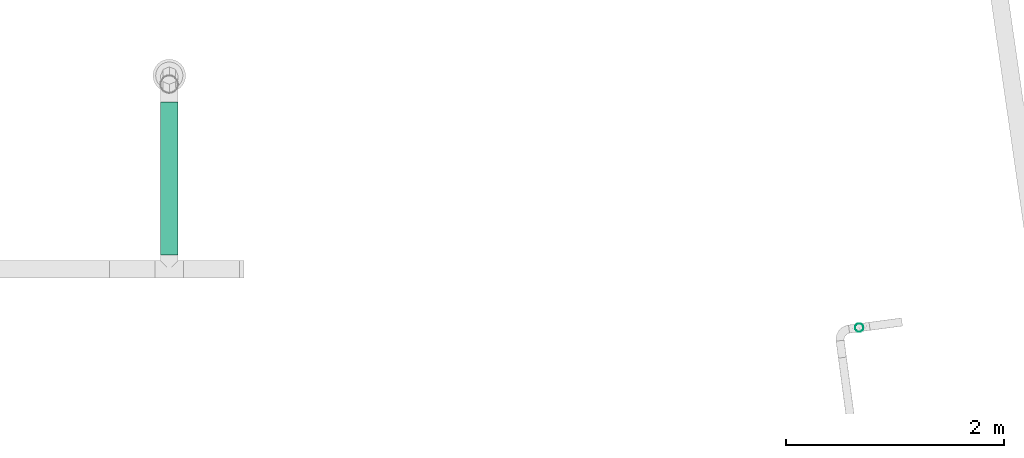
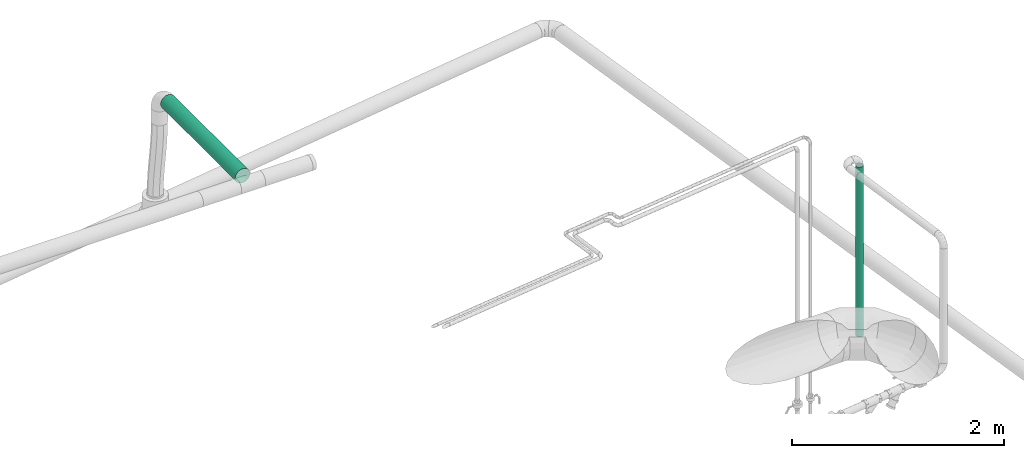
# One storey, part 232 of 374: 2 flow segments.
"""IFC2X3 building model written with IfcOpenShell, lengths in metres."""

from ifc_helpers import new_model, si_unit, direction, origin, place, context, subcontext, project, spatial, open_shell, surface_model, source, transform, mapped, element, save


model = new_model("IFC2X3")

# Units and contexts
model_context = context("Model", 3, precision=1e-05, world=origin(), true_north=direction((-0.4480736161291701, 0.8939966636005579)))
body_context = subcontext(model_context, "Body", "Model", "MODEL_VIEW")
ifc_project = project(units=[si_unit("LENGTHUNIT", "METRE"), si_unit("AREAUNIT", "SQUARE_METRE"), si_unit("VOLUMEUNIT", "CUBIC_METRE"), si_unit("PLANEANGLEUNIT", "RADIAN"), si_unit("THERMODYNAMICTEMPERATUREUNIT", "KELVIN"), si_unit("MASSUNIT", "GRAM", prefix="KILO"), si_unit("TIMEUNIT", "SECOND")], contexts=[model_context])

# Site, building, storey
site_placement = place(None, origin())
site = spatial("IfcSite", under=ifc_project, at=site_placement, Name="Site 1", CompositionType="ELEMENT")
building_placement = place(site_placement, origin())
building = spatial("IfcBuilding", under=site, at=building_placement, Name="Undefined", CompositionType="ELEMENT")
storey_placement = place(building_placement, origin())
storey = spatial("IfcBuildingStorey", under=building, at=storey_placement, Name="Rez de chauss\x8ee", CompositionType="ELEMENT", Elevation=0.0)

# Flow segments
shared_shape_1 = source(origin(), body_context, "Body", "SurfaceModel", [
    surface_model("IfcFaceBasedSurfaceModel", [(0.0, 0.020884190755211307, 0.0), (0.0, 0.0, 0.0), (1.4053950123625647, 0.0, -1.776356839e-15), (1.4053950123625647, 0.0208841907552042, -1.776356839e-15), (0.0, -0.020172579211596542, -0.005405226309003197), (1.4053950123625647, -0.020172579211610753, -0.005405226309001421), (0.0, -0.03825881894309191, -0.015847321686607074), (1.4053950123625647, -0.038258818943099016, -0.015847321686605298), (0.0, -0.05302617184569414, -0.0306146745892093), (1.4053950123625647, -0.05302617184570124, -0.030614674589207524), (0.0, -0.06346826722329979, -0.04870091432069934), (1.4053950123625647, -0.0634682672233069, -0.04870091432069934), (0.0, -0.06887349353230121, -0.06887349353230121), (1.4053950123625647, -0.06887349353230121, -0.06887349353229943), (0.0, -0.06887349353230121, -0.08975768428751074), (1.4053950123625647, -0.06887349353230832, -0.08975768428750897), (0.0, -0.06346826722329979, -0.10993026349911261), (1.4053950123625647, -0.0634682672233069, -0.10993026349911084), (0.0, -0.05302617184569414, -0.12801650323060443), (1.4053950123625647, -0.05302617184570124, -0.12801650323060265), (0.0, -0.038258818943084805, -0.14278385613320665), (1.4053950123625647, -0.038258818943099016, -0.1427838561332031), (0.0, -0.020172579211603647, -0.15322595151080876), (1.4053950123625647, -0.020172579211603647, -0.15322595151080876), (0.0, 7.105427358e-15, -0.15863117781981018), (1.4053950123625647, -7.105427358e-15, -0.15863117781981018), (0.0, 0.020884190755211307, -0.15863117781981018), (1.4053950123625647, 0.0208841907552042, -0.15863117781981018), (0.0, 0.04105676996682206, -0.15322595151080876), (1.4053950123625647, 0.04105676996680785, -0.15322595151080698), (0.0, 0.05914300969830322, -0.1427838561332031), (1.4053950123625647, 0.05914300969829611, -0.14278385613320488), (0.0, 0.07391036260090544, -0.12801650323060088), (1.4053950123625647, 0.07391036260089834, -0.12801650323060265), (0.0, 0.0843524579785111, -0.10993026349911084), (1.4053950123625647, 0.08435245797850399, -0.10993026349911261), (0.0, 0.08975768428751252, -0.08975768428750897), (1.4053950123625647, 0.08975768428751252, -0.08975768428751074), (0.0, 0.08975768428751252, -0.06887349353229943), (1.4053950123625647, 0.08975768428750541, -0.06887349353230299), (0.0, 0.0843524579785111, -0.048700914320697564), (1.4053950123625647, 0.08435245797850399, -0.048700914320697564), (0.0, 0.07391036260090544, -0.030614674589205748), (1.4053950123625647, 0.07391036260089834, -0.030614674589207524), (0.0, 0.05914300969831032, -0.015847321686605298), (1.4053950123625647, 0.05914300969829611, -0.015847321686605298), (0.0, 0.04105676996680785, -0.005405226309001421), (1.4053950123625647, 0.04105676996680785, -0.005405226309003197)], [open_shell([[[0, 1, 2, 3]], [[1, 4, 5, 2]], [[4, 6, 7, 5]], [[6, 8, 9, 7]], [[8, 10, 11, 9]], [[10, 12, 13, 11]], [[12, 14, 15, 13]], [[14, 16, 17, 15]], [[16, 18, 19, 17]], [[18, 20, 21, 19]], [[20, 22, 23, 21]], [[22, 24, 25, 23]], [[24, 26, 27, 25]], [[26, 28, 29, 27]], [[28, 30, 31, 29]], [[30, 32, 33, 31]], [[32, 34, 35, 33]], [[34, 36, 37, 35]], [[36, 38, 39, 37]], [[38, 40, 41, 39]], [[40, 42, 43, 41]], [[42, 44, 45, 43]], [[44, 46, 47, 45]], [[46, 0, 3, 47]]])]),
])
flow_segment_1_placement = place(storey_placement, origin())
element("IfcFlowSegment", 1, at=flow_segment_1_placement, inside=storey, Name="Tube", ObjectType="Tube", context=body_context, shape_type="MappedRepresentation", body=[
    mapped(shared_shape_1, transform((61.3468488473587, 22.787875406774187, 3.877274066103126), x_axis=(0.0, 1.0, 0.0), y_axis=(-0.9914448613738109, 0.0, 0.1305261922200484), z_axis=(0.1305261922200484, 0.0, 0.9914448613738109))),
])
shared_shape_2 = source(origin(), body_context, "Body", "SurfaceModel", [
    surface_model("IfcFaceBasedSurfaceModel", [(0.0, 0.009933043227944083, 0.0), (0.0, 0.0, 0.0), (1.9503070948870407, 0.0, -3.552713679e-15), (1.9503070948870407, 0.00993304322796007, 0.0), (0.0, -0.009594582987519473, -0.002570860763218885), (1.9503070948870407, -0.009594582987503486, -0.0025708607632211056), (0.0, -0.018196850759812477, -0.007537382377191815), (1.9503070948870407, -0.01819685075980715, -0.007537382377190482), (0.0, -0.025220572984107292, -0.014561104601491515), (1.9503070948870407, -0.025220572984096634, -0.01456110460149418), (1.4210854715e-14, -0.030187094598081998, -0.023163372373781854), (1.9503070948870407, -0.03018709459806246, -0.023163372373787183), (0.0, -0.03275795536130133, -0.032757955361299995), (1.9503070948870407, -0.03275795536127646, -0.03275795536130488), (1.4210854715e-14, -0.03275795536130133, -0.0426909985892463), (1.9503070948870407, -0.03275795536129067, -0.04269099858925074), (0.0, -0.030187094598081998, -0.052285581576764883), (1.9503070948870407, -0.03018709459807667, -0.052285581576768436), (0.0, -0.02522057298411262, -0.06088784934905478), (1.9503070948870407, -0.025220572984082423, -0.06088784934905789), (0.0, -0.0181968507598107, -0.06791157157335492), (1.9503070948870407, -0.018196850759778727, -0.06791157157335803), (0.0, -0.009594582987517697, -0.07287809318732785), (1.9503070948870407, -0.009594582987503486, -0.07287809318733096), (0.0, -3.552713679e-15, -0.07544895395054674), (1.9503070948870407, 0.0, -0.07544895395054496), (0.0, 0.009933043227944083, -0.07544895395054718), (1.9503070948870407, 0.00993304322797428, -0.07544895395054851), (1.4210854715e-14, 0.019527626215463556, -0.07287809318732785), (1.9503070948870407, 0.019527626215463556, -0.07287809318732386), (0.0, 0.028129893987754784, -0.06791157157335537), (1.9503070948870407, 0.028129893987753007, -0.06791157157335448), (0.0, 0.03515361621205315, -0.06088784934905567), (1.9503070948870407, 0.035153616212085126, -0.060887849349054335), (0.0, 0.04012013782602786, -0.05228558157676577), (1.9503070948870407, 0.04012013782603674, -0.052285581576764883), (0.0, 0.04269099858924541, -0.04269099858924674), (1.9503070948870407, 0.04269099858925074, -0.04269099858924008), (0.0, 0.04269099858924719, -0.03275795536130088), (1.9503070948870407, 0.04269099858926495, -0.032757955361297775), (0.0, 0.04012013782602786, -0.0231633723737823), (1.9503070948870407, 0.04012013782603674, -0.023163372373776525), (0.0, 0.03515361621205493, -0.014561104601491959), (1.9503070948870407, 0.035153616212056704, -0.014561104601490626), (1.4210854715e-14, 0.028129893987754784, -0.007537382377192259), (1.9503070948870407, 0.02812989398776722, -0.007537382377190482), (7.105427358e-15, 0.019527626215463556, -0.0025708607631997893), (1.9503070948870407, 0.019527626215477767, -0.002570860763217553)], [open_shell([[[0, 1, 2, 3]], [[1, 4, 5, 2]], [[4, 6, 7, 5]], [[6, 8, 9, 7]], [[8, 10, 11, 9]], [[10, 12, 13, 11]], [[12, 14, 15, 13]], [[14, 16, 17, 15]], [[16, 18, 19, 17]], [[18, 20, 21, 19]], [[20, 22, 23, 21]], [[22, 24, 25, 23]], [[24, 26, 27, 25]], [[26, 28, 29, 27]], [[28, 30, 31, 29]], [[30, 32, 33, 31]], [[32, 34, 35, 33]], [[34, 36, 37, 35]], [[36, 38, 39, 37]], [[38, 40, 41, 39]], [[40, 42, 43, 41]], [[42, 44, 45, 43]], [[44, 46, 47, 45]], [[46, 0, 3, 47]]])]),
])
flow_segment_2_placement = place(storey_placement, origin())
element("IfcFlowSegment", 2, at=flow_segment_2_placement, inside=storey, Name="Tube acier d'après DIN 2448", ObjectType="Tube acier d'après DIN 2448", context=body_context, shape_type="MappedRepresentation", body=[
    mapped(shared_shape_2, transform((67.65195562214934, 22.16186949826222, 2.1139988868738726), x_axis=(0.0, 0.0, -1.0), y_axis=(-0.9999984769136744, -0.0017453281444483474, 0.0), z_axis=(-0.001745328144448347, 0.9999984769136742, 0.0))),
])

save(model, "model.ifc")
